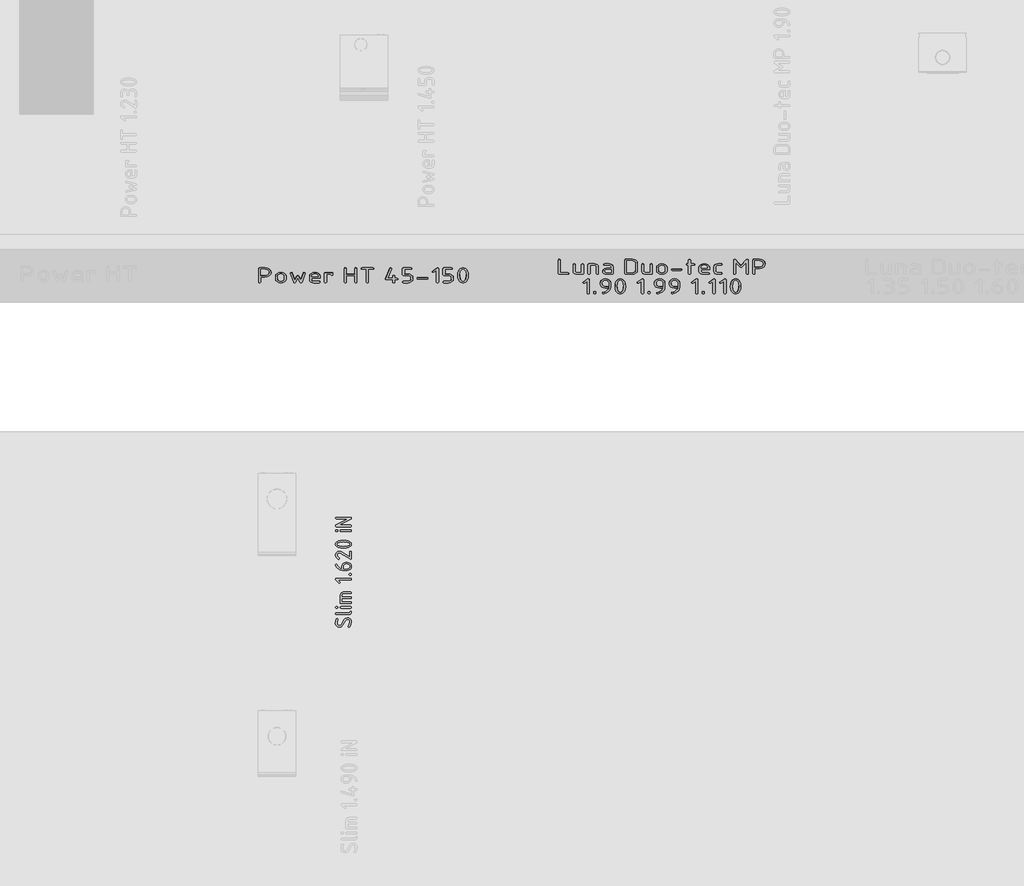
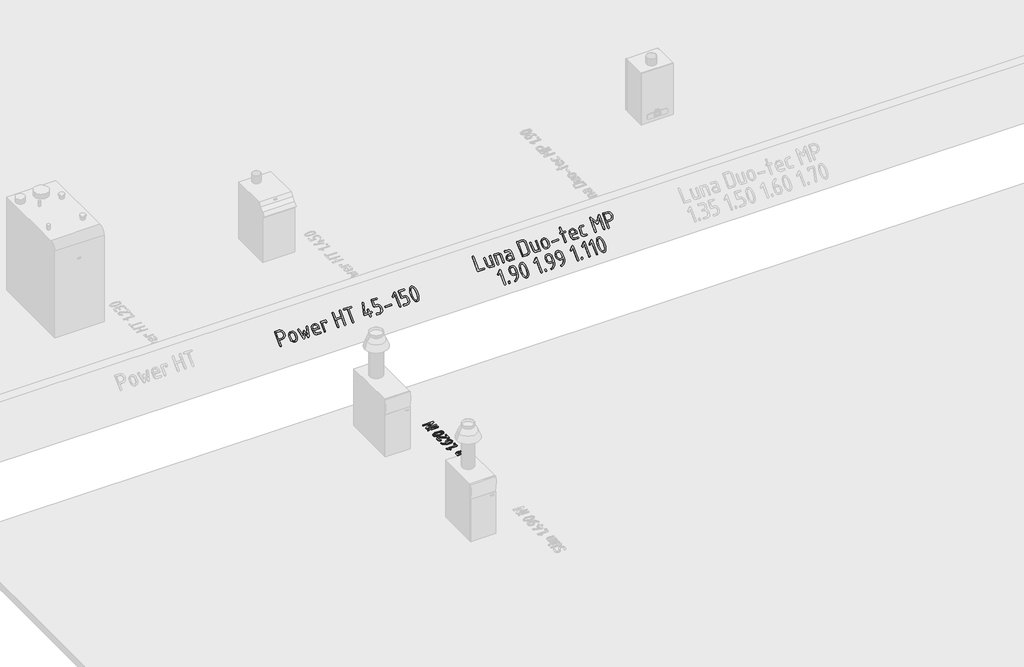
# One storey, part 13 of 37: 3 proxies.
"""IFC4 building model written with IfcOpenShell, lengths in millimetres."""

from ifc_helpers import new_model, si_unit, frame, origin, origin_with_axes, place, context, project, spatial, polyline, outline, extrude, element, save

model = new_model("IFC4")

# Units and contexts
model_context = context("Model", 3, world=origin())
ifc_project = project(units=[si_unit("LENGTHUNIT", "METRE", prefix="MILLI")], contexts=[model_context])

# Site, building, storey
site = spatial("IfcSite", under=ifc_project)
building = spatial("IfcBuilding", under=site)
storey = spatial("IfcBuildingStorey", under=building, Name="01_Стартовый вид_Площадка", Elevation=0.0)

# Proxies
placement = place(None, origin())
element("IfcBuildingElementProxy", 1, Name="150 мм", ObjectType="150 мм", at=placement, inside=storey, context=model_context, shape_type="SweptSolid", body=[
    extrude(outline(polyline([(4038.7504184, -8258.6245497), (4053.1429831, -8261.3662284), (4065.3182338, -8269.5912645), (4073.6181792, -8281.6516544), (4076.3848276, -8295.8993945), (4072.1998973, -8321.9178753), (4059.6451063, -8344.840107), (4053.5325112, -8348.1161384), (4048.2389239, -8345.9188003), (4046.02161, -8340.6851404), (4047.3799645, -8336.4502706), (4057.8472842, -8315.9950503), (4061.0434124, -8296.2190073), (4059.3904149, -8287.6693645), (4054.4314223, -8280.4780761), (4047.1352609, -8275.5939927), (4038.4707572, -8273.9659649), (4026.5052524, -8277.0522262), (4018.2552466, -8286.31101), (3996.6014783, -8328.0204825), (3982.9879698, -8343.0922244), (3963.1619873, -8348.1161384), (3948.7694227, -8345.3894416), (3936.5941719, -8337.209351), (3928.2942266, -8325.2138825), (3925.5275782, -8311.0410517), (3927.6150494, -8287.8591346), (3933.877463, -8270.8896916), (3940.8689934, -8266.4550637), (3946.1625806, -8268.6723777), (3948.3798945, -8273.9659649), (3947.5808625, -8277.0821899), (3942.5469606, -8293.9617418), (3940.8689934, -8310.7214389), (3942.5219909, -8319.1961724), (3947.4809835, -8326.3225395), (3954.7771448, -8331.1616773), (3963.4416485, -8332.7747232), (3975.3771897, -8329.7384014), (3983.5373044, -8320.6294362), (4005.1910727, -8278.9599152), (4018.8944722, -8263.7083911), (4038.7504184, -8258.6245497)])), origin_with_axes(), (0.0, 0.0, 1.0), 10.0),
    extrude(outline(polyline([(3933.078431, -8227.9417193), (3927.4152914, -8226.0240424), (3925.5275782, -8220.2710117), (3927.4152914, -8214.517981), (3933.078431, -8212.6003041), (4053.7722208, -8212.6003041), (4058.5464373, -8210.7275728), (4061.283122, -8205.1093788), (4064.0297947, -8199.4911847), (4068.8339748, -8197.6184534), (4074.4971144, -8199.4861908), (4076.3848276, -8205.089403), (4074.8866425, -8214.3132291), (4070.3920873, -8221.6093904), (4063.2407505, -8226.3586371), (4053.7722208, -8227.9417193), (3933.078431, -8227.9417193)])), origin_with_axes(), (0.0, 0.0, 1.0), 10.0),
    extrude(outline(polyline([(3978.8629669, -8169.1329611), (3973.2597547, -8167.2152842), (3971.3920173, -8161.4622535), (3973.2597547, -8155.7092228), (3978.8629669, -8153.7915459), (4068.8739264, -8153.7915459), (4074.5071023, -8155.7092228), (4076.3848276, -8161.4622535), (4074.5071023, -8167.2152842), (4068.8739264, -8169.1329611), (3978.8629669, -8169.1329611)])), origin_with_axes(), (0.0, 0.0, 1.0), 10.0),
    extrude(outline(polyline([(3940.5493805, -8169.1329611), (3933.0384794, -8169.1329611), (3927.4053035, -8167.2152842), (3925.5275782, -8161.4622535), (3927.4053035, -8155.7092228), (3933.0384794, -8153.7915459), (3940.5493805, -8153.7915459), (3946.1825564, -8155.7092228), (3948.0602817, -8161.4622535), (3946.1825564, -8167.2152842), (3940.5493805, -8169.1329611)])), origin_with_axes(), (0.0, 0.0, 1.0), 10.0),
    extrude(outline(polyline([(3971.5518238, -8115.4380079), (3971.5518238, -8046.4016395), (3973.7191982, -8034.501056), (3980.2213214, -8024.6080406), (3989.8796212, -8017.941117), (4001.5155253, -8015.7188091), (4068.913878, -8015.7188091), (4074.5170902, -8017.636486), (4076.3848276, -8023.3895167), (4074.5170902, -8029.1425474), (4068.913878, -8031.0602243), (4001.7951865, -8031.0602243), (3991.1880362, -8035.4748763), (3986.893239, -8046.4016395), (3986.893239, -8061.7430547), (4068.913878, -8061.7430547), (4074.5170902, -8063.6607316), (4076.3848276, -8069.4137623), (4074.5170902, -8075.166793), (4068.913878, -8077.0844699), (3986.893239, -8077.0844699), (3986.893239, -8107.7673003), (4068.913878, -8107.7673003), (4074.5170902, -8109.6849772), (4076.3848276, -8115.4380079), (4074.5170902, -8121.1910386), (4068.913878, -8123.1087155), (3979.0227733, -8123.1087155), (3973.4195612, -8121.1910386), (3971.5518238, -8115.4380079)])), origin_with_axes(), (0.0, 0.0, 1.0), 10.0),
    extrude(outline(polyline([(3951.2564099, -7903.2150977), (3968.5554536, -7920.4741898), (3970.7128401, -7925.7078496), (3968.8351148, -7931.3410255), (3963.2019389, -7933.2187508), (3957.968279, -7931.0214127), (3928.4839967, -7901.6969368), (3925.5275782, -7895.5443901), (3927.4152914, -7889.7913594), (3933.078431, -7887.8736825), (4068.8339748, -7887.8736825), (4074.4971144, -7889.7913594), (4076.3848276, -7895.5443901), (4074.4971144, -7901.2974208), (4068.8339748, -7903.2150977), (3951.2564099, -7903.2150977)])), origin_with_axes(), (0.0, 0.0, 1.0), 10.0),
    extrude(outline(polyline([(4061.0434124, -7857.1908521), (4055.2903817, -7855.2731752), (4053.3727048, -7849.5201445), (4055.2903817, -7843.7671138), (4061.0434124, -7841.8494369), (4068.71412, -7841.8494369), (4074.4671507, -7843.7671138), (4076.3848276, -7849.5201445), (4074.4671507, -7855.2731752), (4068.71412, -7857.1908521), (4061.0434124, -7857.1908521)])), origin_with_axes(), (0.0, 0.0, 1.0), 10.0),
    extrude(outline(polyline([(3925.5275782, -7759.708943), (3927.4452551, -7754.1956219), (3933.1982858, -7752.3578482), (3939.8302517, -7756.0333956), (3947.0814675, -7771.3448471), (3960.285472, -7784.5987911), (3973.32967, -7792.239535), (3986.893239, -7795.8251913), (3986.893239, -7774.1314714), (3989.6049539, -7759.6540096), (3997.7400989, -7747.7034866), (4009.7705251, -7739.6881964), (4024.1680837, -7737.016433), (4039.1099829, -7737.016433), (4053.5075415, -7739.728148), (4065.5379676, -7747.863293), (4073.6731126, -7759.8437797), (4076.3848276, -7774.0915198), (4073.6581308, -7788.4141691), (4065.4780402, -7800.3796739), (4053.3826927, -7808.4698733), (4038.9102249, -7811.1666065), (3993.4053501, -7811.1666065), (3969.3744614, -7807.0216278), (3948.4997494, -7794.5866916), (3935.6952609, -7781.0630743), (3927.2454971, -7766.3808606), (3925.5275782, -7759.708943)]), holes=[polyline([(4002.2346541, -7795.8251913), (4038.9901281, -7795.8251913), (4047.5148012, -7794.247103), (4054.6311803, -7789.5128382), (4059.4403544, -7782.501332), (4061.0434124, -7774.0915198), (4059.4303665, -7765.6817075), (4054.5912287, -7758.6702014), (4047.4648617, -7753.9359365), (4038.9901281, -7752.3578482), (4024.2879385, -7752.3578482), (4015.7632654, -7753.9509184), (4008.6468863, -7758.7301288), (4003.8377122, -7765.7566168), (4002.2346541, -7774.0915198), (4002.2346541, -7795.8251913)])]), origin_with_axes(), (0.0, 0.0, 1.0), 10.0),
    extrude(outline(polyline([(3925.5275782, -7669.1786127), (3928.2792448, -7654.7510904), (3936.5342445, -7642.6307731), (3948.6945134, -7634.405737), (3963.1619873, -7631.6640583), (3973.9589078, -7633.3719893), (3984.8557072, -7638.4957823), (4061.0434124, -7685.7585276), (4061.0434124, -7639.1749595), (4062.9610893, -7633.5417836), (4068.71412, -7631.6640583), (4074.4671507, -7633.5417836), (4076.3848276, -7639.1749595), (4076.3848276, -7699.1822659), (4074.5071023, -7704.8154418), (4068.8739264, -7706.693167), (4064.5192018, -7705.4147158), (3975.9065484, -7650.4413113), (3963.4416485, -7646.6858607), (3954.7771448, -7648.3338643), (3947.4809835, -7653.2778751), (3942.5219909, -7660.5490667), (3940.8689934, -7669.1786127), (3945.5832824, -7681.4137908), (3959.7261495, -7692.7101063), (3963.3617453, -7699.1822659), (3961.48402, -7704.8154418), (3955.8508441, -7706.693167), (3952.7745708, -7705.9740382), (3932.3393263, -7689.8036273), (3927.2305152, -7680.0479454), (3925.5275782, -7669.1786127)])), origin_with_axes(), (0.0, 0.0, 1.0), 10.0),
    extrude(outline(polyline([(4000.9562029, -7527.3504253), (4026.0957485, -7528.9784531), (4047.5797225, -7533.8625365), (4069.1835513, -7546.2774968), (4074.5845085, -7554.6348726), (4076.3848276, -7564.4255121), (4074.5919995, -7574.2161515), (4069.213515, -7582.5735273), (4047.6995773, -7594.9884876), (4026.1856396, -7599.872571), (4000.9562029, -7601.5005988), (3975.7267662, -7599.872571), (3954.2128285, -7594.9884876), (3932.6988907, -7582.5735273), (3927.3204063, -7574.2161515), (3925.5275782, -7564.4255121), (3927.3278972, -7554.6348726), (3932.7288544, -7546.2774968), (3954.3326833, -7533.8625365), (3975.8166573, -7528.9784531), (4000.9562029, -7527.3504253)]), holes=[polyline([(4000.9562029, -7542.6918405), (3965.7987931, -7546.5271943), (3947.1014433, -7553.9182407), (3940.8689934, -7564.4255121), (3947.131407, -7574.8428923), (3965.9186479, -7582.203975), (4000.9562029, -7586.1591836), (4036.1136127, -7582.3238298), (4054.8109625, -7574.9327834), (4061.0434124, -7564.4255121), (4054.8109625, -7553.9182407), (4036.1136127, -7546.5271943), (4000.9562029, -7542.6918405)])]), origin_with_axes(), (0.0, 0.0, 1.0), 10.0),
    extrude(outline(polyline([(3978.8629669, -7445.5295443), (3973.2597547, -7443.6118674), (3971.3920173, -7437.8588367), (3973.2597547, -7432.105806), (3978.8629669, -7430.1881291), (4068.8739264, -7430.1881291), (4074.5071023, -7432.105806), (4076.3848276, -7437.8588367), (4074.5071023, -7443.6118674), (4068.8739264, -7445.5295443), (3978.8629669, -7445.5295443)])), origin_with_axes(), (0.0, 0.0, 1.0), 10.0),
    extrude(outline(polyline([(3940.5493805, -7445.5295443), (3933.0384794, -7445.5295443), (3927.4053035, -7443.6118674), (3925.5275782, -7437.8588367), (3927.4053035, -7432.105806), (3933.0384794, -7430.1881291), (3940.5493805, -7430.1881291), (3946.1825564, -7432.105806), (3948.0602817, -7437.8588367), (3946.1825564, -7443.6118674), (3940.5493805, -7445.5295443)])), origin_with_axes(), (0.0, 0.0, 1.0), 10.0),
    extrude(outline(polyline([(4039.7092569, -7325.3551252), (3933.078431, -7325.3551252), (3927.4152914, -7323.4374483), (3925.5275782, -7317.6844176), (3927.4152914, -7311.9313869), (3933.078431, -7310.01371), (4068.8339748, -7310.01371), (4074.4971144, -7312.0512417), (4076.3848276, -7318.1638369), (4072.629377, -7325.3551252), (3962.0832941, -7384.1638835), (4068.8339748, -7384.1638835), (4074.4971144, -7386.0815604), (4076.3848276, -7391.8345911), (4074.4971144, -7397.5876218), (4068.8339748, -7399.5052987), (3933.078431, -7399.5052987), (3927.4152914, -7397.5077186), (3925.5275782, -7391.5149783), (3930.0021576, -7384.1638835), (4039.7092569, -7325.3551252)])), origin_with_axes(), (0.0, 0.0, 1.0), 10.0),
])
element("IfcBuildingElementProxy", 2, Name="200мм", ObjectType="200мм", at=placement, inside=storey, context=model_context, shape_type="SweptSolid", body=[
    extrude(outline(polyline([(181.0073918, 0.0), (188.5582447, -2.5569025), (191.0751956, -10.2276101), (188.5715618, -17.8983177), (181.0606606, -20.4552202), (10.3874166, -20.4552202), (10.3874166, -90.4504271), (7.830514, -97.9613283), (0.1598064, -100.464962), (-7.5109012, -97.9613283), (-10.0678037, -90.4504271), (-10.0678037, -10.2276101), (-7.5508528, -2.5569025), (0.0, 0.0), (181.0073918, 0.0)])), frame((6027.6559894, -5003.178187, 164.2491502), z_axis=(0.0, -0.7071067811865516, 0.7071067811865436), x_axis=(0.0, 0.7071067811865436, 0.7071067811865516)), (0.0, 0.0, 1.0), 10.0),
    extrude(outline(polyline([(7.8963813, 1e-07), (121.2937942, -38.8098097), (127.5601635, -43.5725011), (127.5101016, -51.4095222), (111.5032111, -98.1796552), (103.8057301, -111.7461767), (91.4765408, -120.9968587), (76.5112491, -124.9537748), (60.9054607, -122.6389988), (-24.1173995, -93.5402659), (-30.3578956, -88.7019762), (-30.230214, -80.6381602), (-25.39024, -74.1871074), (-17.4938586, -74.1871074), (67.1762096, -103.1650987), (82.2515299, -102.3002328), (92.2362967, -91.3041201), (104.7416798, -54.7649537), (1.2728405, -19.3531584), (-4.9676556, -14.5148688), (-4.8399741, -6.4510528), (0.0, 0.0), (7.8963813, 1e-07)])), frame((6263.7433232, -4913.2206151, 254.2067221), z_axis=(0.0, -0.7071067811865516, 0.7071067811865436), x_axis=(0.32380687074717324, -0.6690101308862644, -0.6690101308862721)), (0.0, 0.0, 1.0), 10.0),
    extrude(outline(polyline([(7.8963813, 0.0), (121.2937942, -38.8098098), (127.5601635, -43.5725011), (127.5101015, -51.4095223), (111.5032111, -98.1796553), (103.8057301, -111.7461768), (91.4765408, -120.9968587), (76.511249, -124.9537749), (60.9054607, -122.6389988), (-24.1173995, -93.5402659), (-30.3578956, -88.7019763), (-30.230214, -80.6381603), (-25.39024, -74.1871075), (-17.4938587, -74.1871075), (67.1762096, -103.1650988), (82.3596044, -102.4779765), (92.2362967, -91.3041202), (104.7416798, -54.7649538), (1.2728404, -19.3531585), (-4.9676556, -14.5148688), (-4.8399741, -6.4510528), (0.0, 0.0), (7.8963813, 0.0)])), frame((6309.7675688, -5008.5362795, 158.8910576), z_axis=(0.0, -0.7071067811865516, 0.7071067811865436), x_axis=(-0.32380687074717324, 0.6690101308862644, 0.6690101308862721)), (0.0, 0.0, 1.0), 10.0),
    extrude(outline(polyline([(50.232481, 0.0), (65.7203854, -2.9630771), (78.6247529, -11.8523086), (87.3342022, -25.0429959), (90.2373519, -40.9104405), (84.9104716, -61.5254672), (70.5678465, -76.7470275), (50.232481, -81.820881), (10.2276102, -81.820881), (10.2276102, -100.5714996), (15.9806409, -113.9153347), (30.2034112, -119.3221182), (70.2082821, -119.3221182), (77.7191833, -121.8790207), (80.222817, -129.5497283), (77.7191833, -137.2204359), (70.2082821, -139.7773384), (30.2034112, -139.7773384), (14.628945, -136.8875059), (1.5714297, -128.2180082), (-7.2778502, -115.3402751), (-10.2276101, -99.8257363), (-10.2276101, -9.9612661), (-7.6707076, -2.4903165), (0.0, 0.0), (50.232481, 0.0)]), holes=[polyline([(10.2276102, -61.3656608), (50.232481, -61.3656608), (57.9231644, -59.8741343), (64.3753482, -55.3995548), (68.7500486, -48.7942233), (70.2082821, -40.9104405), (64.295445, -26.5012294), (57.8232854, -21.9667225), (50.232481, -20.4552203), (10.2276102, -20.4552203), (10.2276102, -61.3656608)])]), frame((6535.6272926, -5010.2971992, 157.1301379), z_axis=(0.0, -0.7071067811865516, 0.7071067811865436), x_axis=(-1.0, 0.0, 0.0)), (0.0, 0.0, 1.0), 10.0),
    extrude(outline(polyline([(181.0073918, 0.0), (188.5582447, -2.4903165), (191.0751956, -9.9612661), (191.0751956, -69.6223252), (187.4395998, -88.918949), (176.5328124, -104.9395414), (160.3257792, -115.726474), (140.7894457, -119.3221182), (40.2179462, -119.3221182), (20.8813707, -115.6865224), (4.6343858, -104.779735), (-6.3922563, -88.719191), (-10.0678037, -69.6223252), (-10.0678037, -9.9612661), (-7.5508528, -2.4903165), (0.0, 0.0), (181.0073918, 0.0)]), holes=[polyline([(170.6199753, -20.4552202), (10.3874166, -20.4552202), (10.3874166, -69.4625188), (12.5847546, -80.7621636), (19.176769, -90.2639863), (28.8850083, -96.71617), (40.4310213, -98.8668979), (140.5763705, -98.8668979), (152.1223835, -96.71617), (161.8306228, -90.2639863), (168.4226372, -80.7621636), (170.6199753, -69.4625188), (170.6199753, -20.4552202)])]), frame((6654.9494108, -5003.178187, 164.2491502), z_axis=(0.0, -0.7071067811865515, 0.7071067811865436), x_axis=(0.0, 0.7071067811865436, 0.7071067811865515)), (0.0, 0.0, 1.0), 10.0),
    extrude(outline(polyline([(7.8963813, 0.0), (121.2937942, -38.8098098), (127.5601635, -43.5725011), (127.5101015, -51.4095223), (111.5032111, -98.1796552), (103.8057301, -111.7461767), (91.4765408, -120.9968587), (76.5112491, -124.9537748), (60.9054607, -122.6389988), (-24.1173995, -93.5402659), (-30.3578956, -88.7019763), (-30.230214, -80.6381603), (-25.39024, -74.1871075), (-17.4938586, -74.1871074), (67.1762096, -103.1650987), (82.2515299, -102.3002328), (92.2362967, -91.3041201), (104.7416798, -54.7649537), (1.2728405, -19.3531584), (-4.9676556, -14.5148688), (-4.8399741, -6.4510528), (0.0, 0.0), (7.8963813, 0.0)])), frame((6911.4919649, -4913.2206151, 254.2067221), z_axis=(0.0, -0.7071067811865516, 0.7071067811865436), x_axis=(0.32380687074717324, -0.6690101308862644, -0.6690101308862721)), (0.0, 0.0, 1.0), 10.0),
    extrude(outline(polyline([(19.5277269, 0.0), (58.788553, -7.3971647), (76.977393, -14.5033742), (90.8173496, -28.1486772), (98.6171829, -45.8732873), (98.6856532, -65.2174178), (91.5847544, -83.4140341), (77.9948347, -97.0679287), (60.1996699, -104.6308688), (40.4830361, -104.5546222), (1.2222101, -97.1574575), (-16.96663, -90.051248), (-30.8065866, -76.405945), (-38.6064199, -58.6813348), (-38.6748902, -39.3372043), (-31.5717163, -21.3442893), (-17.856617, -7.6733254), (0.0, 0.0), (19.5277269, 0.0)]), holes=[polyline([(5.5853838, -77.1644064), (44.8985577, -84.5714339), (56.5989581, -84.61445), (67.3060997, -80.1473936), (75.5187711, -72.161262), (79.7357612, -61.6470529), (79.6340604, -50.3191558), (74.8906592, -39.89196), (66.5432132, -31.8348129), (55.6293779, -27.6170622), (16.316204, -20.2100346), (4.5148066, -20.1276623), (-6.1812393, -24.5358276), (-14.3509512, -32.5097259), (-18.5733473, -43.1245526), (-18.4716465, -54.4524498), (-13.7282453, -64.8796457), (-5.3677123, -72.9392585), (5.5853838, -77.1644064)])]), frame((6958.574928, -4988.5729118, 178.8544254), z_axis=(0.0, -0.7071067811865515, 0.7071067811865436), x_axis=(-0.1851531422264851, 0.6948806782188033, 0.6948806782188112)), (0.0, 0.0, 1.0), 10.0),
    extrude(outline(polyline([(7.934191, 0.0), (83.6754056, -25.7842433), (89.9616024, -30.6252263), (89.8596756, -38.6935315), (85.0176197, -45.1481756), (77.0834286, -45.1481756), (1.3422141, -19.3639324), (-4.9439827, -14.5229492), (-4.842056, -6.4546441), (0.0, 0.0), (7.934191, 0.0)])), frame((7191.7924051, -4972.3291337, 195.0982034), z_axis=(0.0, -0.7071067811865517, 0.7071067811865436), x_axis=(-0.9466499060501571, -0.22787491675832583, -0.22787491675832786)), (0.0, 0.0, 1.0), 10.0),
    extrude(outline(polyline([(109.3608521, 0.0), (109.3608521, 10.0145349), (111.9177546, 17.5254361), (119.5884622, 20.0290699), (127.2591698, 17.5254361), (129.8160723, 10.0145349), (129.8160723, 0.0), (180.954123, 0.0), (188.6248306, -2.5569025), (191.1817332, -10.2276101), (188.6248306, -17.8983177), (180.954123, -20.4552202), (129.8160723, -20.4552202), (129.8160723, -50.498825), (127.2591698, -57.9697746), (119.5884622, -60.4600911), (111.9177546, -57.9697746), (109.3608521, -50.498825), (109.3608521, -20.4552202), (0.0, -20.4552202), (-7.4709496, -17.8983177), (-9.9612661, -10.2276101), (-7.4709496, -2.5569025), (0.0, 0.0), (109.3608521, 0.0)])), frame((7254.9692052, -5003.2535204, 164.1738167), z_axis=(0.0, -0.7071067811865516, 0.7071067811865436), x_axis=(0.0, 0.7071067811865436, 0.7071067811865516)), (0.0, 0.0, 1.0), 10.0),
    extrude(outline(polyline([(80.0097417, 0.0), (80.0097417, 20.4552203), (74.0969046, 34.8644314), (67.6247451, 39.3989382), (60.0339407, 40.9104405), (10.0145349, 40.9104405), (2.5036337, 43.4673431), (0.0, 51.1380507), (2.5036337, 58.8087582), (10.0145349, 61.3656608), (60.0339407, 61.3656608), (75.5751139, 58.4758282), (88.6392878, 49.8063306), (97.5085434, 36.9285976), (100.464962, 21.4140587), (100.464962, -28.4988095), (96.7561216, -47.6888957), (85.6296004, -63.8160257), (69.309371, -74.7627647), (50.0194058, -78.4116777), (30.5829514, -74.8693023), (14.4624799, -64.2421762), (3.61562, -48.4479761), (0.0, -29.4043792), (0.0, 0.0), (80.0097417, 0.0)]), holes=[polyline([(50.0194058, -60.4600912), (61.5254672, -58.262753), (71.2203893, -51.6707387), (77.8124036, -41.9758166), (80.0097417, -30.4697552), (80.0097417, -20.4552203), (20.0290698, -20.4552203), (20.0290698, -30.4697552), (22.2264079, -41.9758166), (28.8184223, -51.6707387), (38.5133444, -58.262753), (50.0194058, -60.4600912)])]), frame((7454.3010651, -4966.9051244, 200.5222128), z_axis=(0.0, -0.7071067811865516, 0.7071067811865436), x_axis=(-1.0, 0.0, 0.0)), (0.0, 0.0, 1.0), 10.0),
    extrude(outline(polyline([(15.150878, 0.0), (69.918334, 22.8458531), (80.4980469, 33.6657617), (80.4672849, 48.8903841), (68.9008028, 76.6182523), (68.3843818, 84.4977287), (74.5050909, 89.7492381), (82.5432932, 90.4040175), (87.7793513, 84.493304), (99.3458335, 56.7654358), (102.6619404, 41.3096074), (99.6902547, 25.914741), (91.2197, 12.7713241), (78.0392002, 4.0698443), (22.7801153, -18.9810883), (7.3232334, -22.2254877), (-7.9764678, -18.9976632), (-21.0073017, -10.2781336), (-29.6575818, 2.9525826), (-41.224064, 30.6804508), (-41.740485, 38.5599271), (-35.6197759, 43.8114365), (-27.5815735, 44.4662159), (-22.3455154, 38.5555025), (-10.7790332, 10.8276343), (0.0, 0.0), (15.150878, 0.0)])), frame((7519.9015957, -4930.0105607, 237.4167764), z_axis=(0.0, -0.7071067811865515, 0.7071067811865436), x_axis=(-0.3849898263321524, -0.652603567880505, -0.6526035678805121)), (0.0, 0.0, 1.0), 10.0),
    extrude(outline(polyline([(10.3655397, 0.0), (16.808038, -5.8210176), (16.0926611, -13.8320345), (-61.1141157, -177.5476095), (-66.6474907, -183.2865022), (-74.6589865, -182.2911476), (-80.5233252, -176.7427848), (-79.6152284, -168.822653), (-16.5183422, -35.0268461), (-79.0036711, -73.1120259), (-89.858128, -74.6483104), (-95.6739444, -65.2504766), (-105.9403866, 7.1437772), (-169.0372729, -126.6520297), (-174.5706478, -132.3909225), (-182.5821437, -131.3955678), (-188.4464823, -125.8472051), (-187.5383855, -117.9270732), (-110.3316087, 45.7885018), (-104.6536937, 51.4592308), (-96.208578, 50.2593851), (-89.6719781, 41.6406434), (-78.0740164, -49.2856567), (0.0, 0.0), (10.3655397, 0.0)])), frame((7800.4417455, -4871.1939592, 296.2333779), z_axis=(0.0, -0.7071067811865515, 0.7071067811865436), x_axis=(0.9044690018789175, 0.30160887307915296, 0.30160887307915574)), (0.0, 0.0, 1.0), 10.0),
    extrude(outline(polyline([(7.8835354, 0.0), (54.9822837, -15.8674928), (75.3551696, -27.452775), (89.324598, -46.3241219), (95.3595377, -69.2676232), (91.9289573, -93.0693685), (80.1317631, -115.1766267), (62.1553062, -129.8058847), (40.1087195, -135.8689668), (16.101136, -132.2776977), (-21.3557464, -119.6585341), (-43.2607096, -184.6780281), (-48.0307567, -190.8280684), (-56.0823369, -190.7011911), (-62.5480183, -185.866963), (-62.5603687, -177.894951), (-4.7707219, -6.3606027), (0.0, 0.0), (7.8835354, 0.0)]), holes=[polyline([(11.2976149, -22.7350648), (-14.8250741, -100.2738403), (22.3289224, -112.7909621), (37.6683221, -114.8320671), (52.4892795, -110.4450816), (64.7838936, -100.6679697), (72.5442635, -86.5386962), (74.9157894, -70.5939298), (71.0438718, -55.3703394), (61.898987, -42.9093), (48.4516115, -35.2521866), (11.2976149, -22.7350648)])]), frame((7864.2977228, -4869.8473735, 297.5799636), z_axis=(0.0, -0.7071067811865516, 0.7071067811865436), x_axis=(0.9476648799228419, 0.22575570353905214, 0.2257557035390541)), (0.0, 0.0, 1.0), 10.0),
    extrude(outline(polyline([(156.7700866, 0.0), (133.7046949, 23.0121227), (130.8281796, 29.9903359), (133.3318133, 37.5012371), (140.8427146, 40.0048708), (147.8209277, 37.0750867), (187.1333041, -2.0242146), (191.0751955, -10.2276102), (188.5582446, -17.8983178), (181.0073918, -20.4552203), (0.0, -20.4552203), (-7.5508528, -17.8983178), (-10.0678037, -10.2276102), (-7.5508528, -2.5569026), (0.0, 0.0), (156.7700866, 0.0)])), frame((6300.3922595, -5187.9916181, -20.5642809), z_axis=(0.0, -0.7071067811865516, 0.7071067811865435), x_axis=(0.0, 0.7071067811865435, 0.7071067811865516)), (0.0, 0.0, 1.0), 10.0),
    extrude(outline(polyline([(10.2276101, 0.0), (17.8983177, -2.5569026), (20.4552203, -10.2276102), (17.8983177, -17.8983178), (10.2276101, -20.4552203), (0.0, -20.4552203), (-7.6707076, -17.8983178), (-10.2276102, -10.2276102), (-7.6707076, -2.5569026), (0.0, 0.0), (10.2276101, 0.0)])), frame((6361.7579203, -5187.8786179, -20.4512807), z_axis=(0.0, -0.7071067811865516, 0.7071067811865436), x_axis=(0.0, 0.7071067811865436, 0.7071067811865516)), (0.0, 0.0, 1.0), 10.0),
    extrude(outline(polyline([(24.0964066, 0.0), (29.1647479, -5.4498801), (29.1882997, -12.89224), (25.8651446, -17.4749731), (21.3220079, -18.7124715), (1.7563734, -19.1099077), (-15.4679941, -23.5639158), (-30.0494113, -30.6594022), (-41.987878, -40.3963671), (-51.2833944, -52.7748104), (-24.7470242, -64.2845613), (-8.7685454, -75.2866979), (1.4393077, -91.9293367), (4.8168526, -111.4012792), (0.3044067, -130.8913273), (-7.8350856, -149.657379), (-18.9816241, -166.2699893), (-35.5063568, -177.1096187), (-54.6204596, -181.0343007), (-73.5351084, -176.9020687), (-89.6083095, -165.967717), (-99.9048497, -149.6132195), (-103.3837409, -130.5255388), (-99.0039945, -111.3916377), (-74.8610732, -55.7287913), (-62.5435333, -34.6342421), (-45.9608412, -18.3145938), (-25.1129967, -6.7698465), (0.0, 0.0), (24.0964066, 0.0)]), holes=[polyline([(-59.4228867, -71.5408622), (-79.3264891, -117.4297232), (-81.9562652, -128.8308416), (-79.9679805, -140.2608109), (-73.9960607, -150.0364153), (-64.6749318, -156.4744394), (-53.6050838, -158.8806945), (-42.3870069, -156.5609922), (-32.6831617, -150.2023082), (-26.156009, -140.4916182), (-18.207286, -122.1653958), (-15.5035426, -110.6439426), (-17.4394982, -99.2439282), (-23.4169379, -89.5312511), (-32.8376467, -83.0718097), (-59.4228867, -71.5408622)])]), frame((6475.4868143, -5188.3306187, -20.9032815), z_axis=(0.0, -0.7071067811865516, 0.7071067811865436), x_axis=(-0.9174211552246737, -0.2813702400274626, -0.28137024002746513)), (0.0, 0.0, 1.0), 10.0),
    extrude(outline(polyline([(33.5896076, 0.0), (66.8986549, -4.3323324), (95.063235, -12.6820124), (111.3579665, -21.0737201), (122.7383843, -31.0621998), (129.2044885, -42.6474518), (130.756279, -55.8294758), (127.5272211, -68.701894), (119.65078, -79.3583279), (107.1269555, -87.7987777), (89.9557478, -94.0232434), (60.9096188, -98.6679788), (27.200407, -98.6602332), (-6.2282447, -94.3201553), (-34.4326928, -85.9678934), (-50.6576551, -77.580704), (-61.9882378, -67.5954515), (-68.4244409, -56.012136), (-69.9662644, -42.8307573), (-66.7272396, -29.9589847), (-58.8208973, -19.3044871), (-46.2472378, -10.8672646), (-29.0062609, -4.6473172), (0.0, 0.0), (33.5896076, 0.0)]), holes=[polyline([(32.267704, -20.412462), (-14.8413307, -22.4862152), (-40.3558734, -30.709274), (-46.9944147, -36.7784264), (-49.5538025, -44.1526609), (-47.9524235, -51.7262833), (-42.1189924, -58.5530721), (-17.7559727, -69.9661483), (28.5223105, -78.2477711), (75.6313453, -76.1740181), (101.145888, -67.9509592), (107.7844292, -61.8818067), (110.343817, -54.5075723), (108.7569234, -46.8648261), (102.9566205, -39.9901388), (78.715787, -28.5449399), (32.267704, -20.412462)])]), frame((6659.5971138, -5100.2940501, 67.1332871), z_axis=(0.0, -0.7071067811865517, 0.7071067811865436), x_axis=(0.06462426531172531, -0.7056286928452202, -0.7056286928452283)), (0.0, 0.0, 1.0), 10.0),
    extrude(outline(polyline([(156.7700866, 0.0), (133.7046949, 23.0121228), (130.8281796, 29.9903359), (133.3318133, 37.5012371), (140.8427146, 40.0048708), (147.8209277, 37.0750867), (187.1333041, -2.0242145), (191.0751955, -10.2276102), (188.5582446, -17.8983178), (181.0073918, -20.4552203), (0.0, -20.4552203), (-7.5508528, -17.8983178), (-10.0678037, -10.2276102), (-7.5508528, -2.5569026), (0.0, 0.0), (156.7700866, 0.0)])), frame((6811.7727661, -5187.9916181, -20.5642809), z_axis=(0.0, -0.7071067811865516, 0.7071067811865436), x_axis=(0.0, 0.7071067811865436, 0.7071067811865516)), (0.0, 0.0, 1.0), 10.0),
    extrude(outline(polyline([(10.2276101, 0.0), (17.8983177, -2.5569026), (20.4552203, -10.2276102), (17.8983177, -17.8983178), (10.2276101, -20.4552203), (0.0, -20.4552203), (-7.6707076, -17.8983178), (-10.2276102, -10.2276102), (-7.6707076, -2.5569026), (0.0, 0.0), (10.2276101, 0.0)])), frame((6873.1384269, -5187.8786179, -20.4512807), z_axis=(0.0, -0.7071067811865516, 0.7071067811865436), x_axis=(0.0, 0.7071067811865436, 0.7071067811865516)), (0.0, 0.0, 1.0), 10.0),
    extrude(outline(polyline([(24.0964065, 0.0), (29.1647478, -5.44988), (29.1882996, -12.8922399), (25.8651446, -17.4749731), (21.3220078, -18.7124715), (1.7563733, -19.1099077), (-15.4679942, -23.5639157), (-30.0494113, -30.6594022), (-41.9878781, -40.3963671), (-51.2833945, -52.7748104), (-24.7470243, -64.2845613), (-8.7685455, -75.2866979), (1.4393076, -91.9293366), (4.8168525, -111.4012792), (0.3044066, -130.8913272), (-7.8350857, -149.657379), (-18.9816242, -166.2699893), (-35.5063569, -177.1096187), (-54.6204597, -181.0343007), (-73.5351085, -176.9020686), (-89.6083096, -165.967717), (-99.9048498, -149.6132195), (-103.383741, -130.5255388), (-99.0039946, -111.3916376), (-74.8610733, -55.7287913), (-62.5435333, -34.6342421), (-45.9608412, -18.3145938), (-25.1129968, -6.7698464), (0.0, 0.0), (24.0964065, 0.0)]), holes=[polyline([(-59.4228868, -71.5408622), (-79.3264892, -117.4297232), (-81.9562653, -128.8308415), (-79.9679805, -140.2608109), (-73.9960608, -150.0364153), (-64.6749319, -156.4744394), (-53.6050839, -158.8806944), (-42.387007, -156.5609922), (-32.6831618, -150.2023081), (-26.1560091, -140.4916182), (-18.2072861, -122.1653957), (-15.5035427, -110.6439426), (-17.4394983, -99.2439282), (-23.416938, -89.5312511), (-32.8376468, -83.0718097), (-59.4228868, -71.5408622)])]), frame((6986.8673208, -5188.3306187, -20.9032815), z_axis=(0.0, -0.7071067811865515, 0.7071067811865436), x_axis=(-0.9174211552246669, -0.2813702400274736, -0.2813702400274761)), (0.0, 0.0, 1.0), 10.0),
    extrude(outline(polyline([(24.0964065, 0.0), (29.1647478, -5.44988), (29.1882997, -12.89224), (25.8651446, -17.4749731), (21.3220078, -18.7124715), (1.7563734, -19.1099077), (-15.4679942, -23.5639157), (-30.0494113, -30.6594022), (-41.9878781, -40.3963671), (-51.2833945, -52.7748104), (-24.7470243, -64.2845613), (-8.7685455, -75.2866979), (1.4393077, -91.9293367), (4.8168525, -111.4012792), (0.3044066, -130.8913272), (-7.8350857, -149.657379), (-18.9816242, -166.2699893), (-35.5063568, -177.1096187), (-54.6204597, -181.0343007), (-73.5351084, -176.9020687), (-89.6083095, -165.967717), (-99.9048498, -149.6132195), (-103.3837409, -130.5255388), (-99.0039945, -111.3916377), (-74.8610732, -55.7287913), (-62.5435333, -34.6342421), (-45.9608412, -18.3145938), (-25.1129968, -6.7698464), (0.0, 0.0), (24.0964065, 0.0)]), holes=[polyline([(-59.4228868, -71.5408622), (-79.3264892, -117.4297232), (-81.9562652, -128.8308416), (-79.9679805, -140.2608109), (-73.9960607, -150.0364153), (-64.6749318, -156.4744394), (-53.6050839, -158.8806944), (-42.387007, -156.5609922), (-32.6831618, -150.2023081), (-26.156009, -140.4916182), (-18.207286, -122.1653958), (-15.5035427, -110.6439426), (-17.4394983, -99.2439282), (-23.416938, -89.5312511), (-32.8376467, -83.0718097), (-59.4228868, -71.5408622)])]), frame((7126.6446593, -5188.3306187, -20.9032815), z_axis=(0.0, -0.7071067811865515, 0.7071067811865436), x_axis=(-0.9174211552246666, -0.2813702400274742, -0.28137024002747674)), (0.0, 0.0, 1.0), 10.0),
    extrude(outline(polyline([(156.7700866, 0.0), (133.7046949, 23.0121228), (130.8281796, 29.9903359), (133.3318133, 37.5012371), (140.8427146, 40.0048709), (147.8209277, 37.0750867), (187.1333041, -2.0242145), (191.0751955, -10.2276101), (188.5582446, -17.8983177), (181.0073918, -20.4552203), (0.0, -20.4552203), (-7.5508528, -17.8983177), (-10.0678037, -10.2276101), (-7.5508528, -2.5569026), (0.0, 0.0), (156.7700866, 0.0)])), frame((7323.1532727, -5187.9916181, -20.5642809), z_axis=(0.0, -0.7071067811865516, 0.7071067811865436), x_axis=(0.0, 0.7071067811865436, 0.7071067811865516)), (0.0, 0.0, 1.0), 10.0),
    extrude(outline(polyline([(10.2276101, 0.0), (17.8983177, -2.5569025), (20.4552203, -10.2276101), (17.8983177, -17.8983177), (10.2276101, -20.4552203), (0.0, -20.4552203), (-7.6707076, -17.8983177), (-10.2276102, -10.2276101), (-7.6707076, -2.5569025), (0.0, 0.0), (10.2276101, 0.0)])), frame((7384.5189335, -5187.8786179, -20.4512807), z_axis=(0.0, -0.7071067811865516, 0.7071067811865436), x_axis=(0.0, 0.7071067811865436, 0.7071067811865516)), (0.0, 0.0, 1.0), 10.0),
    extrude(outline(polyline([(156.7700866, 0.0), (133.7046949, 23.0121228), (130.8281796, 29.9903359), (133.3318133, 37.5012371), (140.8427146, 40.0048709), (147.8209277, 37.0750867), (187.1333041, -2.0242145), (191.0751955, -10.2276102), (188.5582446, -17.8983178), (181.0073918, -20.4552203), (0.0, -20.4552203), (-7.5508528, -17.8983178), (-10.0678037, -10.2276102), (-7.5508528, -2.5569026), (0.0, 0.0), (156.7700866, 0.0)])), frame((7486.7950348, -5187.9916181, -20.5642809), z_axis=(0.0, -0.7071067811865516, 0.7071067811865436), x_axis=(0.0, 0.7071067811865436, 0.7071067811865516)), (0.0, 0.0, 1.0), 10.0),
    extrude(outline(polyline([(156.7700866, 0.0), (133.7046949, 23.0121228), (130.8281796, 29.9903359), (133.3318133, 37.5012371), (140.8427146, 40.0048708), (147.8209277, 37.0750867), (187.1333041, -2.0242145), (191.0751955, -10.2276102), (188.5582446, -17.8983178), (181.0073918, -20.4552203), (0.0, -20.4552203), (-7.5508528, -17.8983178), (-10.0678037, -10.2276102), (-7.5508528, -2.5569026), (0.0, 0.0), (156.7700866, 0.0)])), frame((7589.0711361, -5187.9916181, -20.5642809), z_axis=(0.0, -0.7071067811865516, 0.7071067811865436), x_axis=(0.0, 0.7071067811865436, 0.7071067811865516)), (0.0, 0.0, 1.0), 10.0),
    extrude(outline(polyline([(33.5896076, 0.0), (66.8986549, -4.3323324), (95.063235, -12.6820125), (111.3579665, -21.0737202), (122.7383843, -31.0621998), (129.2044885, -42.6474518), (130.756279, -55.8294759), (127.5272211, -68.7018941), (119.65078, -79.358328), (107.1269555, -87.7987777), (89.9557478, -94.0232434), (60.9096188, -98.6679789), (27.2004069, -98.6602333), (-6.2282447, -94.3201554), (-34.4326928, -85.9678934), (-50.6576551, -77.580704), (-61.9882378, -67.5954516), (-68.4244409, -56.0121361), (-69.9662644, -42.8307574), (-66.7272396, -29.9589847), (-58.8208973, -19.3044871), (-46.2472378, -10.8672647), (-29.0062609, -4.6473173), (0.0, 0.0), (33.5896076, 0.0)]), holes=[polyline([(32.267704, -20.4124621), (-14.8413307, -22.4862153), (-40.3558734, -30.7092741), (-46.9944147, -36.7784265), (-49.5538025, -44.152661), (-47.9524236, -51.7262834), (-42.1189924, -58.5530721), (-17.7559727, -69.9661483), (28.5223105, -78.2477712), (75.6313453, -76.1740181), (101.145888, -67.9509592), (107.7844292, -61.8818068), (110.343817, -54.5075724), (108.7569234, -46.8648262), (102.9566205, -39.9901389), (78.715787, -28.54494), (32.267704, -20.4124621)])]), frame((7747.1329912, -5100.2940501, 67.1332871), z_axis=(0.0, -0.7071067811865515, 0.7071067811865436), x_axis=(0.06462426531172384, -0.7056286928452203, -0.7056286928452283)), (0.0, 0.0, 1.0), 10.0),
])
element("IfcBuildingElementProxy", 3, Name="200мм", ObjectType="200мм", at=placement, inside=storey, context=model_context, shape_type="SweptSolid", body=[
    extrude(outline(polyline([(7.8835354, 0.0), (54.9822837, -15.8674927), (75.3551697, -27.4527749), (89.3245981, -46.3241218), (95.3595377, -69.2676231), (91.9289574, -93.0693684), (80.1317631, -115.1766267), (62.1553061, -129.8058846), (40.1087195, -135.8689667), (16.101136, -132.2776976), (-21.3557464, -119.658534), (-43.2607096, -184.678028), (-48.0307567, -190.8280683), (-56.082337, -190.701191), (-62.5480184, -185.8669629), (-62.5603687, -177.8949509), (-4.7707219, -6.3606027), (0.0, 0.0), (7.8835354, 0.0)]), holes=[polyline([(11.2976149, -22.7350647), (-14.8250742, -100.2738402), (22.3289224, -112.790962), (37.6683221, -114.832067), (52.4892795, -110.4450815), (64.7838936, -100.6679697), (72.5442635, -86.5386961), (74.9157895, -70.5939297), (71.0438718, -55.3703393), (61.898987, -42.9092999), (48.4516115, -35.2521866), (11.2976149, -22.7350647)])]), frame((3203.567688, -4950.7879523, 216.6393848), z_axis=(0.0, -0.7071067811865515, 0.7071067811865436), x_axis=(0.9476648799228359, 0.22575570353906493, 0.22575570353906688)), (0.0, 0.0, 1.0), 10.0),
    extrude(outline(polyline([(19.5277269, 0.0), (58.788553, -7.3971647), (76.977393, -14.5033742), (90.8173496, -28.1486773), (98.6171829, -45.8732873), (98.6856532, -65.2174179), (91.5847543, -83.4140342), (77.9948347, -97.0679287), (60.19967, -104.6308689), (40.4830361, -104.5546222), (1.2222101, -97.1574575), (-16.96663, -90.0512481), (-30.8065866, -76.405945), (-38.6064199, -58.6813349), (-38.6748903, -39.3372044), (-31.5717163, -21.3442893), (-17.856617, -7.6733255), (0.0, 0.0), (19.5277269, 0.0)]), holes=[polyline([(5.5853838, -77.1644064), (44.8985576, -84.5714339), (56.5989581, -84.6144501), (67.3060997, -80.1473936), (75.5187712, -72.1612621), (79.7357612, -61.647053), (79.6340604, -50.3191559), (74.8906592, -39.8919599), (66.5432132, -31.8348129), (55.6293778, -27.6170623), (16.316204, -20.2100347), (4.5148066, -20.1276624), (-6.1812392, -24.5358276), (-14.3509512, -32.5097259), (-18.5733473, -43.1245527), (-18.4716465, -54.4524499), (-13.7282453, -64.8796457), (-5.3677123, -72.9392586), (5.5853838, -77.1644064)])]), frame((3364.9255502, -5069.5134905, 97.9138466), z_axis=(0.0, -0.7071067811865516, 0.7071067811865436), x_axis=(-0.1851531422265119, 0.6948806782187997, 0.6948806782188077)), (0.0, 0.0, 1.0), 10.0),
    extrude(outline(polyline([(6.809779, 0.0), (11.8219321, -3.6221802), (13.6484918, -9.9853458), (15.3260848, -67.9620005), (52.0154125, -23.4026528), (57.501394, -19.2791428), (63.6325155, -19.3713874), (69.0021884, -23.678241), (70.1870459, -31.5110195), (60.0974234, -152.7297253), (59.4717638, -155.5555071), (54.794499, -161.5164629), (46.9161712, -161.3491619), (41.5012353, -157.5052507), (40.1805891, -151.0612993), (47.7561137, -60.1641719), (14.1228931, -101.206762), (9.121626, -104.6513281), (2.9503981, -104.264015), (-2.0210757, -100.8526798), (-3.8264363, -95.0876725), (-5.384856, -41.8790948), (-55.0617794, -118.5923101), (-60.1191955, -122.861922), (-66.6788824, -122.6235754), (-72.3814385, -117.7248661), (-73.0810085, -110.367062), (-71.8503152, -107.7475416), (-5.5051753, -5.0877823), (0.0, 0.0), (6.809779, 0.0)])), frame((3607.0921862, -5089.6840253, 77.7433118), z_axis=(0.0, -0.7071067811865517, 0.7071067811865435), x_axis=(-0.946510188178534, -0.22816492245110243, -0.2281649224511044)), (0.0, 0.0, 1.0), 10.0),
    extrude(outline(polyline([(80.0097418, 0.0), (80.0097418, 20.4552203), (74.0969047, 34.8644314), (67.6247451, 39.3989382), (60.0339407, 40.9104405), (10.0145349, 40.9104405), (2.5036337, 43.467343), (0.0, 51.1380507), (2.5036337, 58.8087582), (10.0145349, 61.3656608), (60.0339407, 61.3656608), (75.5751139, 58.4758283), (88.6392878, 49.8063306), (97.5085435, 36.9285975), (100.464962, 21.4140587), (100.464962, -28.4988095), (96.7561216, -47.6888956), (85.6296005, -63.8160257), (69.309371, -74.7627647), (50.0194058, -78.4116777), (30.5829514, -74.8693023), (14.46248, -64.2421762), (3.61562, -48.4479761), (0.0, -29.4043792), (0.0, 0.0), (80.0097418, 0.0)]), holes=[polyline([(50.0194058, -60.4600912), (61.5254672, -58.262753), (71.2203893, -51.6707387), (77.8124037, -41.9758166), (80.0097418, -30.4697552), (80.0097418, -20.4552203), (20.0290699, -20.4552203), (20.0290699, -30.4697552), (22.226408, -41.9758166), (28.8184223, -51.6707387), (38.5133444, -58.262753), (50.0194058, -60.4600912)])]), frame((3782.2400097, -5047.8457031, 119.581634), z_axis=(0.0, -0.7071067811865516, 0.7071067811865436), x_axis=(-1.0, 0.0, 0.0)), (0.0, 0.0, 1.0), 10.0),
    extrude(outline(polyline([(119.8548062, 0.0), (127.3257558, -2.5569026), (129.8160723, -10.2276102), (129.8160723, -70.4746261), (127.2591698, -77.9455757), (119.5884622, -80.4358922), (99.3463172, -80.4358922), (91.835416, -77.9455757), (89.3317822, -70.4746261), (91.835416, -62.9637249), (99.3463172, -60.4600912), (109.3608521, -60.4600912), (109.3608521, -20.4552203), (0.0, -20.4552203), (-7.4709496, -17.8983178), (-9.9612662, -10.2276102), (-7.4709496, -2.5569026), (0.0, 0.0), (119.8548062, 0.0)])), frame((3821.5523861, -5084.1940992, 83.233238), z_axis=(0.0, -0.7071067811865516, 0.7071067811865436), x_axis=(0.0, 0.7071067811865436, 0.7071067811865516)), (0.0, 0.0, 1.0), 10.0),
    extrude(outline(polyline([(7.9720216, 0.0), (179.416636, -58.0553192), (185.7484838, -62.8989575), (185.6722013, -70.971688), (180.7901214, -77.4170586), (172.704577, -77.3786169), (104.8936407, -54.4161835), (79.7443088, -128.6853043), (147.5552451, -151.6477377), (154.0006157, -156.5298177), (153.9621741, -164.6153621), (149.1179351, -171.0735465), (141.1459135, -171.0735465), (-30.2987009, -113.0182273), (-36.6305487, -108.174589), (-36.5542662, -100.1018585), (-31.7478681, -93.6308602), (-23.8893693, -93.5924186), (60.3697555, -122.124609), (85.5190874, -47.8554882), (1.2599626, -19.3232978), (-4.9583624, -14.5181011), (-4.844239, -6.4581844), (0.0, 0.0), (7.9720216, 0.0)])), frame((4011.6154744, -5089.4580249, 77.9693122), z_axis=(0.0, -0.7071067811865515, 0.7071067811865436), x_axis=(-0.3207345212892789, 0.6697497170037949, 0.6697497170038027)), (0.0, 0.0, 1.0), 10.0),
    extrude(outline(polyline([(8.0689489, 0.0), (14.5842428, -4.7601348), (14.6844672, -12.6936928), (-16.4878043, -108.200227), (-21.2365979, -114.5090936), (-29.3014149, -114.4964337), (-35.8208407, -109.7489588), (-35.9334613, -101.8533806), (-23.5207488, -63.8229421), (-185.7704495, -10.8664425), (-192.1172959, -6.1052527), (-192.117296, 1.9636963), (-187.3571612, 8.4789901), (-179.4236031, 8.5792145), (-17.1739024, -44.377285), (-4.7611898, -6.3468464), (0.0, 0.0), (8.0689489, 0.0)])), frame((4169.5042058, -4961.6642211, 205.7631161), z_axis=(0.0, -0.7071067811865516, 0.7071067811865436), x_axis=(-0.31028003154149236, 0.6722076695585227, 0.6722076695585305)), (0.0, 0.0, 1.0), 10.0),
    extrude(outline(polyline([(7.917185, 0.0), (10.3934109, -1.1623101), (130.7514682, -83.4504991), (134.8406101, -88.4913877), (134.6089903, -94.955685), (129.8713131, -101.2936443), (121.9920295, -101.306278), (119.4147331, -99.941827), (10.4776363, -25.3349921), (-4.3291842, -69.7554535), (24.1726819, -79.2560755), (30.4516834, -84.044288), (30.3885144, -92.1088674), (25.600302, -98.5984324), (17.7041733, -98.6616013), (-10.7976928, -89.1609793), (-17.1314408, -108.1622233), (-21.9196532, -114.4412249), (-29.9842327, -114.3780559), (-36.4737975, -109.5898434), (-36.5369666, -101.6937147), (-30.2032186, -82.6924707), (-59.3115073, -72.9897078), (-65.780016, -68.1383264), (-65.780016, -60.0526906), (-60.9286345, -53.584182), (-52.8429987, -53.584182), (-23.73471, -63.2869449), (-4.750311, -6.333748), (0.0, 0.0), (7.917185, 0.0)])), frame((4398.3469825, -5060.5393917, 106.8879455), z_axis=(0.0, -0.7071067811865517, 0.7071067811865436), x_axis=(-0.3162277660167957, 0.670820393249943, 0.6708203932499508)), (0.0, 0.0, 1.0), 10.0),
    extrude(outline(polyline([(8.05258, 0.0), (85.9933219, -24.8977371), (92.5546312, -29.5660627), (92.7533733, -37.3466056), (71.8755834, -102.7031653), (67.1544008, -109.0798276), (59.0856113, -109.1305702), (52.5405116, -104.4115019), (52.3903979, -96.4787311), (70.026295, -41.2707055), (11.5707384, -22.5974027), (2.6231142, -50.6073568), (-6.5931996, -67.4452021), (-21.8581101, -79.1913375), (-40.4463132, -84.5354393), (-59.6325046, -82.1671837), (-78.6102633, -76.1048441), (-95.6952148, -66.8305639), (-107.6752422, -51.5538486), (-113.1979124, -32.999474), (-110.9107923, -13.8922156), (-98.8833698, 23.758846), (-94.1865013, 30.0593942), (-86.1258167, 30.0847656), (-79.5645074, 25.4164399), (-79.3657653, 17.635897), (-91.295931, -19.7107086), (-92.7185758, -31.1883307), (-89.4977376, -42.178083), (-82.4104137, -51.1735429), (-72.233601, -56.668287), (-53.5602983, -62.6333698), (-42.1420522, -64.0230671), (-31.1274569, -60.7682242), (-22.0898878, -53.6803717), (-16.6027199, -43.5710399), (-4.6725542, -6.2244343), (0.0, 0.0), (8.05258, 0.0)])), frame((4560.3906805, -5019.5203209, 147.9070162), z_axis=(0.0, -0.7071067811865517, 0.7071067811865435), x_axis=(-0.30429563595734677, 0.6735741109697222, 0.6735741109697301)), (0.0, 0.0, 1.0), 10.0),
    extrude(outline(polyline([(7.934191, 0.0), (83.6754055, -25.7842432), (89.9616023, -30.6252263), (89.8596755, -38.6935314), (85.0176196, -45.1481755), (77.0834285, -45.1481756), (1.3422141, -19.3639324), (-4.9439827, -14.5229492), (-4.8420561, -6.4546441), (0.0, 0.0), (7.934191, 0.0)])), frame((4794.7734127, -5053.2697125, 114.1576247), z_axis=(0.0, -0.7071067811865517, 0.7071067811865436), x_axis=(-0.9466499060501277, -0.22787491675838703, -0.22787491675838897)), (0.0, 0.0, 1.0), 10.0),
    extrude(outline(polyline([(156.7700866, 0.0), (133.704695, 23.0121228), (130.8281796, 29.990336), (133.3318134, 37.5012372), (140.8427146, 40.0048709), (147.8209277, 37.0750868), (187.1333041, -2.0242145), (191.0751956, -10.2276101), (188.5582446, -17.8983177), (181.0073918, -20.4552202), (0.0, -20.4552202), (-7.5508528, -17.8983177), (-10.0678037, -10.2276101), (-7.5508528, -2.5569025), (0.0, 0.0), (156.7700866, 0.0)])), frame((4878.4054331, -5084.1187657, 83.3085714), z_axis=(0.0, -0.7071067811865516, 0.7071067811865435), x_axis=(0.0, 0.7071067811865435, 0.7071067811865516)), (0.0, 0.0, 1.0), 10.0),
    extrude(outline(polyline([(8.05258, 0.0), (85.9933219, -24.8977371), (92.5546312, -29.5660627), (92.7533733, -37.3466056), (71.8755834, -102.7031652), (67.1544008, -109.0798275), (59.0856113, -109.1305702), (52.5405116, -104.4115018), (52.3903979, -96.478731), (70.026295, -41.2707054), (11.5707384, -22.5974026), (2.6231142, -50.6073568), (-6.5931995, -67.445202), (-21.8581101, -79.1913375), (-40.4463132, -84.5354392), (-59.6325046, -82.1671836), (-78.6102633, -76.104844), (-95.6952148, -66.8305638), (-107.6752422, -51.5538485), (-113.1979124, -32.9994739), (-110.9107922, -13.8922155), (-98.8833698, 23.758846), (-94.1865013, 30.0593942), (-86.1258167, 30.0847656), (-79.5645074, 25.4164399), (-79.3657653, 17.635897), (-91.295931, -19.7107085), (-92.7185758, -31.1883306), (-89.4977376, -42.178083), (-82.4104136, -51.1735428), (-72.233601, -56.6682869), (-53.5602983, -62.6333697), (-42.1420521, -64.023067), (-31.1274569, -60.7682242), (-22.0898878, -53.6803717), (-16.6027199, -43.5710398), (-4.6725542, -6.2244343), (0.0, 0.0), (8.05258, 0.0)])), frame((4942.2214588, -5019.5203209, 147.9070162), z_axis=(0.0, -0.7071067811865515, 0.7071067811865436), x_axis=(-0.3042956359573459, 0.6735741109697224, 0.6735741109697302)), (0.0, 0.0, 1.0), 10.0),
    extrude(outline(polyline([(33.5896076, 0.0), (66.8986549, -4.3323324), (95.063235, -12.6820125), (111.3579664, -21.0737202), (122.7383843, -31.0621998), (129.2044885, -42.6474518), (130.756279, -55.8294759), (127.5272211, -68.7018941), (119.65078, -79.358328), (107.1269555, -87.7987777), (89.9557478, -94.0232434), (60.9096188, -98.6679789), (27.2004069, -98.6602333), (-6.2282447, -94.3201554), (-34.4326928, -85.9678934), (-50.6576551, -77.580704), (-61.9882378, -67.5954516), (-68.4244409, -56.0121361), (-69.9662645, -42.8307574), (-66.7272396, -29.9589847), (-58.8208973, -19.3044871), (-46.2472378, -10.8672647), (-29.0062609, -4.6473173), (0.0, 0.0), (33.5896076, 0.0)]), holes=[polyline([(32.267704, -20.4124621), (-14.8413308, -22.4862153), (-40.3558735, -30.7092741), (-46.9944147, -36.7784265), (-49.5538025, -44.152661), (-47.9524236, -51.7262834), (-42.1189924, -58.5530721), (-17.7559727, -69.9661483), (28.5223105, -78.2477712), (75.6313453, -76.1740181), (101.145888, -67.9509592), (107.7844292, -61.8818068), (110.3438169, -54.5075724), (108.7569234, -46.8648262), (102.9566205, -39.9901389), (78.715787, -28.54494), (32.267704, -20.4124621)])]), frame((5176.2446266, -4996.4211977, 171.0061394), z_axis=(0.0, -0.7071067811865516, 0.7071067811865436), x_axis=(0.06462426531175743, -0.7056286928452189, -0.7056286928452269)), (0.0, 0.0, 1.0), 10.0),
])

save(model, "model.ifc")
